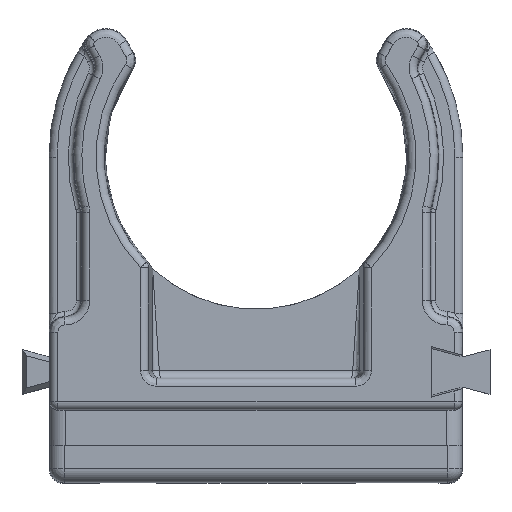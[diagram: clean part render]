
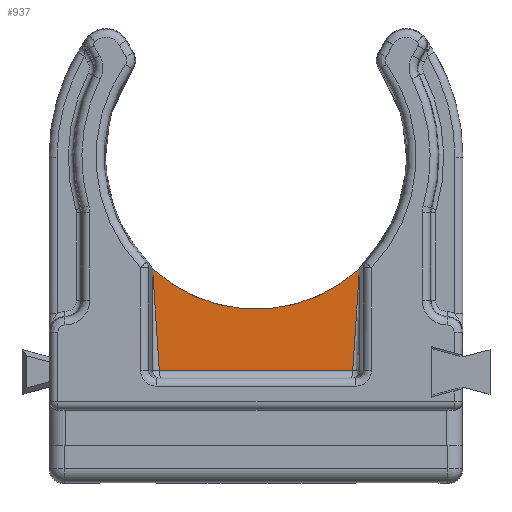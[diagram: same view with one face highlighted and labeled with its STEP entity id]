
A CAD part, top view. The second image highlights one B-rep face of the part: STEP entity #937.
In plain terms, the highlighted planar face has unit normal (0, 0, 1).
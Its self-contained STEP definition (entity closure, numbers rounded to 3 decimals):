
#374=B_SPLINE_CURVE_WITH_KNOTS('',1,(#10432,#10433),.UNSPECIFIED.,.F.,.F.,
(2,2),(0.,1.),.UNSPECIFIED.);
#378=B_SPLINE_CURVE_WITH_KNOTS('',1,(#10571,#10572),.UNSPECIFIED.,.F.,.F.,
(2,2),(0.,1.),.UNSPECIFIED.);
#508=CIRCLE('',#5279,9.548);
#937=ADVANCED_FACE('',(#1345),#1052,.T.);
#1052=PLANE('',#5634);
#1345=FACE_OUTER_BOUND('',#1660,.T.);
#1660=EDGE_LOOP('',(#2852,#2853,#2854,#2855));
#2852=ORIENTED_EDGE('',*,*,#3907,.T.);
#2853=ORIENTED_EDGE('',*,*,#4321,.T.);
#2854=ORIENTED_EDGE('',*,*,#4324,.T.);
#2855=ORIENTED_EDGE('',*,*,#4327,.T.);
#3407=VERTEX_POINT('',#7997);
#3408=VERTEX_POINT('',#7999);
#3628=VERTEX_POINT('',#10431);
#3629=VERTEX_POINT('',#10561);
#3907=EDGE_CURVE('',#3408,#3407,#508,.T.);
#4321=EDGE_CURVE('',#3407,#3628,#374,.T.);
#4324=EDGE_CURVE('',#3628,#3629,#4694,.T.);
#4327=EDGE_CURVE('',#3629,#3408,#378,.T.);
#4694=LINE('',#10562,#5034);
#5034=VECTOR('',#6829,1.);
#5279=AXIS2_PLACEMENT_3D('',#7998,#6014,#6015);
#5634=AXIS2_PLACEMENT_3D('',#10573,#6835,#6836);
#6014=DIRECTION('',(0.,0.,-1.));
#6015=DIRECTION('',(1.,0.,0.));
#6829=DIRECTION('',(1.,0.,0.));
#6835=DIRECTION('',(0.,0.,1.));
#6836=DIRECTION('',(0.,-1.,0.));
#7997=CARTESIAN_POINT('',(-6.5,-6.994,-5.5));
#7998=CARTESIAN_POINT('',(0.,0.,-5.5));
#7999=CARTESIAN_POINT('',(6.5,-6.994,-5.5));
#10431=CARTESIAN_POINT('',(-6.074,-13.4,-5.5));
#10432=CARTESIAN_POINT('',(-6.5,-6.994,-5.5));
#10433=CARTESIAN_POINT('',(-6.074,-13.4,-5.5));
#10561=CARTESIAN_POINT('',(6.074,-13.4,-5.5));
#10562=CARTESIAN_POINT('',(-6.075,-13.4,-5.5));
#10571=CARTESIAN_POINT('',(6.074,-13.4,-5.5));
#10572=CARTESIAN_POINT('',(6.5,-6.994,-5.5));
#10573=CARTESIAN_POINT('',(-6.501,-6.993,-5.5));
